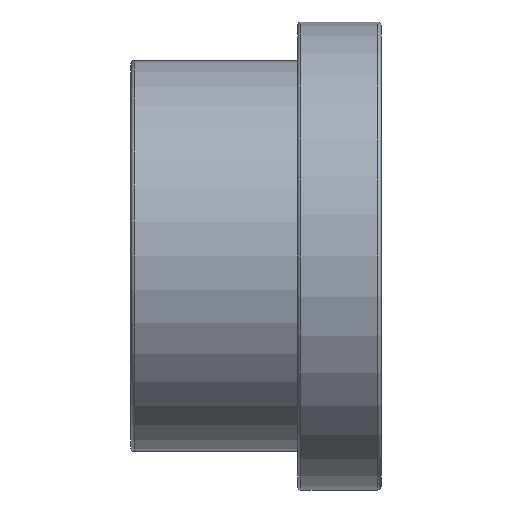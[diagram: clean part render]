
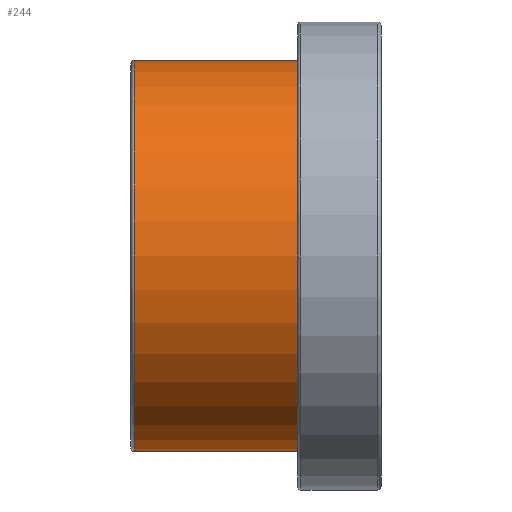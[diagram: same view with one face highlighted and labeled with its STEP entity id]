
A CAD part, front view. The second image highlights one B-rep face of the part: STEP entity #244.
In plain terms, the highlighted cylindrical face has radius 30.5 mm (diameter 61 mm), a full revolution.
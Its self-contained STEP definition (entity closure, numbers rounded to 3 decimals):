
#20=CYLINDRICAL_SURFACE('',#288,30.5);
#46=FACE_BOUND('',#108,.T.);
#67=FACE_OUTER_BOUND('',#107,.T.);
#107=EDGE_LOOP('',(#212));
#108=EDGE_LOOP('',(#213));
#130=CIRCLE('',#285,30.5);
#131=CIRCLE('',#287,30.5);
#151=VERTEX_POINT('',#433);
#152=VERTEX_POINT('',#436);
#172=EDGE_CURVE('',#151,#151,#130,.T.);
#173=EDGE_CURVE('',#152,#152,#131,.T.);
#212=ORIENTED_EDGE('',*,*,#172,.T.);
#213=ORIENTED_EDGE('',*,*,#173,.F.);
#244=ADVANCED_FACE('',(#67,#46),#20,.T.);
#285=AXIS2_PLACEMENT_3D('',#434,#366,#367);
#287=AXIS2_PLACEMENT_3D('',#437,#370,#371);
#288=AXIS2_PLACEMENT_3D('',#438,#372,#373);
#366=DIRECTION('center_axis',(-1.,0.,0.));
#367=DIRECTION('ref_axis',(0.,0.,1.));
#370=DIRECTION('center_axis',(-1.,0.,0.));
#371=DIRECTION('ref_axis',(0.,1.,0.));
#372=DIRECTION('center_axis',(-1.,0.,0.));
#373=DIRECTION('ref_axis',(0.,-1.,0.));
#433=CARTESIAN_POINT('',(26.,-30.5,0.));
#434=CARTESIAN_POINT('Origin',(26.,0.,0.));
#436=CARTESIAN_POINT('',(0.5,-30.5,0.));
#437=CARTESIAN_POINT('Origin',(0.5,0.,0.));
#438=CARTESIAN_POINT('Origin',(13.,0.,0.));
